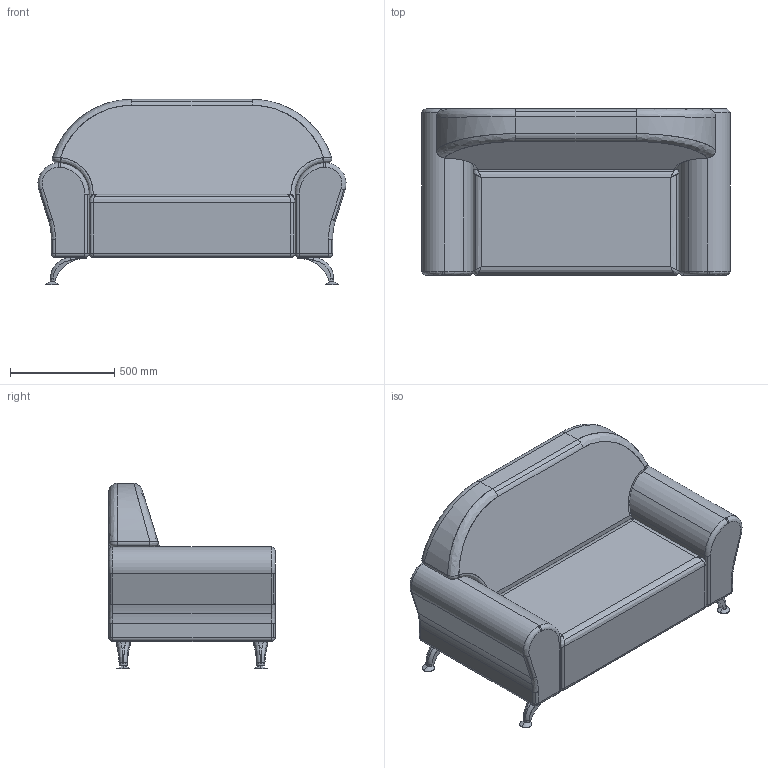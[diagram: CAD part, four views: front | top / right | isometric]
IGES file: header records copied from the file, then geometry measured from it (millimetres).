
Start section: IMSI TurboCAD v14.0
Global section: author: NULL; organization: NULL; date: 20121022.171200; units: millimetre
Bounding box: 1480.7 x 800 x 890 mm (x, y, z)
Surface area: 6726442.3 mm2 (no closed solid volume)
Topology: 0 solids, 0 shells, 279 faces, 1312 edges, 1286 vertices
Faces by surface type: revolution 186, extrusion 71, bspline 22
